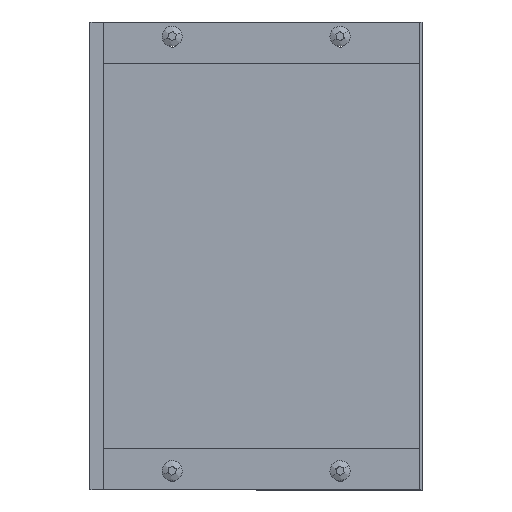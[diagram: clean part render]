
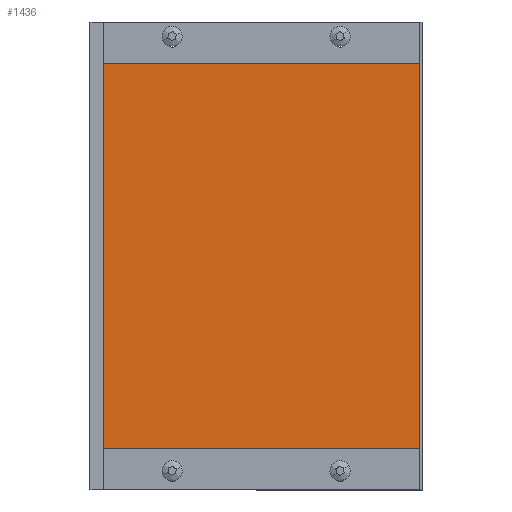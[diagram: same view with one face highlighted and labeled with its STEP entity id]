
A CAD part, front view. The second image highlights one B-rep face of the part: STEP entity #1436.
In plain terms, the highlighted planar face has unit normal (0, -1, 0).
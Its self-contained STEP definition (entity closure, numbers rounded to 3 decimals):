
#98 = DIRECTION ( 'NONE',  ( 0., 0., -1. ) ) ;
#109 = AXIS2_PLACEMENT_3D ( 'NONE', #2737, #1095, #2691 ) ;
#467 = VERTEX_POINT ( 'NONE', #2002 ) ;
#579 = DIRECTION ( 'NONE',  ( -1., 0., 0. ) ) ;
#624 = VERTEX_POINT ( 'NONE', #2731 ) ;
#645 = EDGE_CURVE ( 'NONE', #1679, #624, #1622, .T. ) ;
#736 = VERTEX_POINT ( 'NONE', #1843 ) ;
#885 = ORIENTED_EDGE ( 'NONE', *, *, #2285, .T. ) ;
#1095 = DIRECTION ( 'NONE',  ( 0., 1., 0. ) ) ;
#1131 = CARTESIAN_POINT ( 'NONE',  ( 188.6, 61.1, 254. ) ) ;
#1183 = VECTOR ( 'NONE', #98, 1000. ) ;
#1280 = VECTOR ( 'NONE', #2302, 1000. ) ;
#1383 = CARTESIAN_POINT ( 'NONE',  ( -6.6, 61.1, 279. ) ) ;
#1436 = ADVANCED_FACE ( 'NONE', ( #2473 ), #2979, .F. ) ;
#1622 = LINE ( 'NONE', #1911, #3090 ) ;
#1671 = LINE ( 'NONE', #1383, #1183 ) ;
#1679 = VERTEX_POINT ( 'NONE', #1131 ) ;
#1842 = CARTESIAN_POINT ( 'NONE',  ( -8., 61.1, 25. ) ) ;
#1843 = CARTESIAN_POINT ( 'NONE',  ( -6.6, 61.1, 25. ) ) ;
#1911 = CARTESIAN_POINT ( 'NONE',  ( 0., 61.1, 254. ) ) ;
#2002 = CARTESIAN_POINT ( 'NONE',  ( 188.6, 61.1, 25. ) ) ;
#2071 = ORIENTED_EDGE ( 'NONE', *, *, #2498, .F. ) ;
#2188 = EDGE_LOOP ( 'NONE', ( #885, #2071, #2385, #3149 ) ) ;
#2285 = EDGE_CURVE ( 'NONE', #624, #736, #1671, .T. ) ;
#2302 = DIRECTION ( 'NONE',  ( 0., 0., 1. ) ) ;
#2338 = CARTESIAN_POINT ( 'NONE',  ( 188.6, 61.1, 279. ) ) ;
#2385 = ORIENTED_EDGE ( 'NONE', *, *, #3171, .T. ) ;
#2397 = LINE ( 'NONE', #1842, #3366 ) ;
#2473 = FACE_OUTER_BOUND ( 'NONE', #2188, .T. ) ;
#2498 = EDGE_CURVE ( 'NONE', #467, #736, #2397, .T. ) ;
#2691 = DIRECTION ( 'NONE',  ( 0., 0., 1. ) ) ;
#2731 = CARTESIAN_POINT ( 'NONE',  ( -6.6, 61.1, 254. ) ) ;
#2737 = CARTESIAN_POINT ( 'NONE',  ( -8., 61.1, 279. ) ) ;
#2946 = DIRECTION ( 'NONE',  ( -1., 0., 0. ) ) ;
#2979 = PLANE ( 'NONE',  #109 ) ;
#3090 = VECTOR ( 'NONE', #579, 1000. ) ;
#3149 = ORIENTED_EDGE ( 'NONE', *, *, #645, .T. ) ;
#3171 = EDGE_CURVE ( 'NONE', #467, #1679, #3336, .T. ) ;
#3336 = LINE ( 'NONE', #2338, #1280 ) ;
#3366 = VECTOR ( 'NONE', #2946, 1000. ) ;
